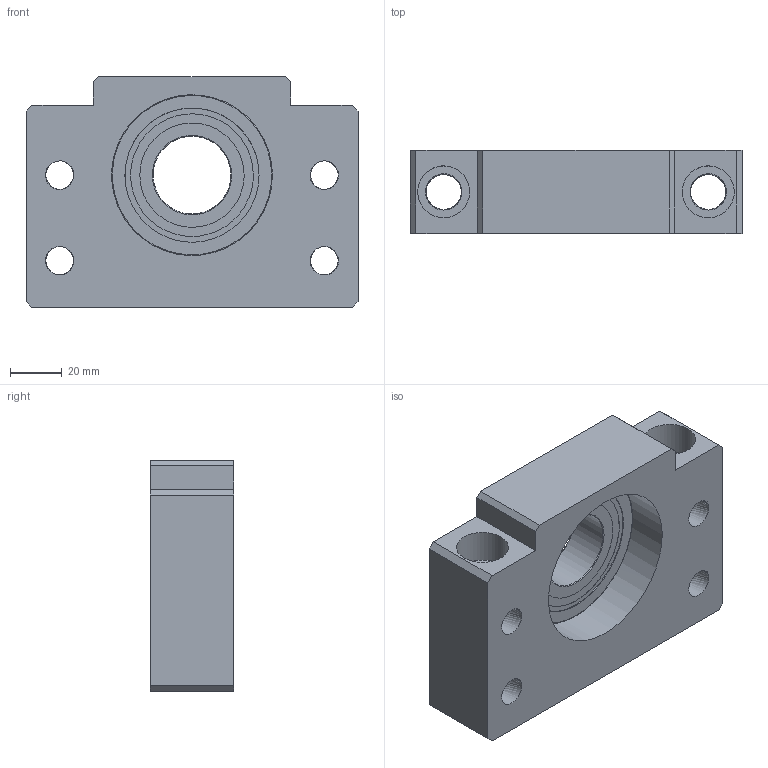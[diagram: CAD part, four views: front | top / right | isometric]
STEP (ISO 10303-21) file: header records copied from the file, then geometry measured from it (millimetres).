
FILE_DESCRIPTION( ('This file contains a STEP AP42 implementation' ,'as created by ZW3D STEP Interface translator.') ,'2;1' );
FILE_NAME( '358F62BA-6F69-CB57-A265-37EC0EDA4664.stp' ,'18 1 4.1746 9', (''), ('ZWCAD Software Co.'), 'Version 1.0', 'ZW3D to STEP translator', '' );
FILE_SCHEMA( ('CONFIG_CONTROL_DESIGN') );
Length unit declared in the file: millimetre
Products named in the file (4): 0; NSFBF-30; _BF 30 Part2; _BF 30 Part1
Assembly tree (2 placements, depth 2):
  0
  NSFBF-30
    _BF 30 Part2
    _BF 30 Part1
Bounding box: 128 x 32 x 89 mm (x, y, z)
Volume: 250251.5 mm3; surface area: 52845.5 mm2
Topology: 2 solids, 2 shells, 51 faces, 126 edges, 83 vertices
Faces by surface type: bspline 51
Entity records: 2403 total; most frequent: CARTESIAN_POINT 1477, ORIENTED_EDGE 252, EDGE_CURVE 126, VERTEX_POINT 83, B_SPLINE_CURVE_WITH_KNOTS 83, EDGE_LOOP 79, FACE_OUTER_BOUND 51, ADVANCED_FACE 51
